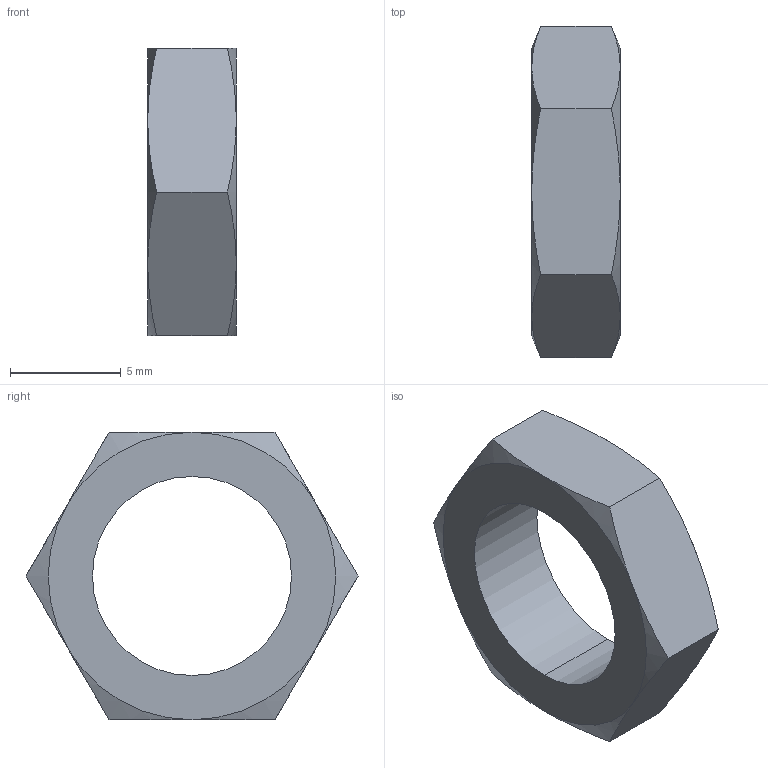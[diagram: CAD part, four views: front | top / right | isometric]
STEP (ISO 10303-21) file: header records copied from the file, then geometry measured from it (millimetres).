
FILE_DESCRIPTION (( '' ), '1' );
FILE_NAME ('LN10x1.STEP', '', ( '' ), ( '' ), '', '', '' );
FILE_SCHEMA (( 'CONFIG_CONTROL_DESIGN' ));
Length unit declared in the file: millimetre
Products named in the file (1): LN10(PLN0100010-0000)
Bounding box: 4 x 15.01 x 13 mm (x, y, z)
Volume: 327.7 mm3; surface area: 448.4 mm2
Topology: 1 solids, 1 shells, 22 faces, 48 edges, 28 vertices
Faces by surface type: cone 12, plane 8, cylinder 2
Entity records: 745 total; most frequent: CARTESIAN_POINT 219, ORIENTED_EDGE 96, DIRECTION 86, EDGE_CURVE 48, AXIS2_PLACEMENT_3D 39, VERTEX_POINT 28, EDGE_LOOP 24, B_SPLINE_CURVE_WITH_KNOTS 24
